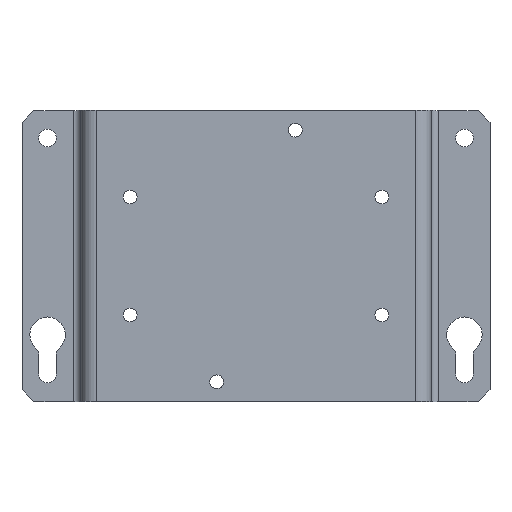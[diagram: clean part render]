
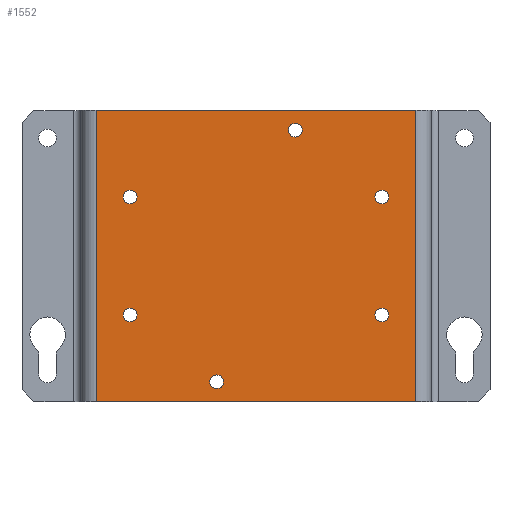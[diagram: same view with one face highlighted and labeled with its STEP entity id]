
A CAD part, top view. The second image highlights one B-rep face of the part: STEP entity #1552.
In plain terms, the highlighted planar face has unit normal (0, 0, 1).
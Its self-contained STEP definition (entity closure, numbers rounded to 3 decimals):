
#24=CARTESIAN_POINT('',(32.,-15.,-5.75));
#25=DIRECTION('',(0.,0.,-1.));
#26=DIRECTION('',(0.,-1.,0.));
#27=AXIS2_PLACEMENT_3D('',#24,#25,#26);
#33=CARTESIAN_POINT('',(32.,-15.,-5.75));
#34=DIRECTION('',(0.,0.,-1.));
#35=DIRECTION('',(0.,1.,0.));
#36=AXIS2_PLACEMENT_3D('',#33,#34,#35);
#41=CARTESIAN_POINT('',(-32.,-15.,-5.75));
#42=DIRECTION('',(0.,0.,-1.));
#43=DIRECTION('',(0.,-1.,0.));
#44=AXIS2_PLACEMENT_3D('',#41,#42,#43);
#49=CARTESIAN_POINT('',(-32.,-15.,-5.75));
#50=DIRECTION('',(0.,0.,-1.));
#51=DIRECTION('',(0.,1.,0.));
#52=AXIS2_PLACEMENT_3D('',#49,#50,#51);
#57=CARTESIAN_POINT('',(10.,32.,-5.75));
#58=DIRECTION('',(0.,0.,-1.));
#59=DIRECTION('',(0.,-1.,0.));
#60=AXIS2_PLACEMENT_3D('',#57,#58,#59);
#65=CARTESIAN_POINT('',(10.,32.,-5.75));
#66=DIRECTION('',(0.,0.,-1.));
#67=DIRECTION('',(0.,1.,0.));
#68=AXIS2_PLACEMENT_3D('',#65,#66,#67);
#73=CARTESIAN_POINT('',(-32.,15.,-5.75));
#74=DIRECTION('',(0.,0.,1.));
#75=DIRECTION('',(-1.,0.,0.));
#76=AXIS2_PLACEMENT_3D('',#73,#74,#75);
#81=CARTESIAN_POINT('',(-32.,15.,-5.75));
#82=DIRECTION('',(0.,0.,1.));
#83=DIRECTION('',(1.,0.,0.));
#84=AXIS2_PLACEMENT_3D('',#81,#82,#83);
#89=CARTESIAN_POINT('',(32.,15.,-5.75));
#90=DIRECTION('',(0.,0.,1.));
#91=DIRECTION('',(-1.,0.,0.));
#92=AXIS2_PLACEMENT_3D('',#89,#90,#91);
#97=CARTESIAN_POINT('',(32.,15.,-5.75));
#98=DIRECTION('',(0.,0.,1.));
#99=DIRECTION('',(1.,0.,0.));
#100=AXIS2_PLACEMENT_3D('',#97,#98,#99);
#105=CARTESIAN_POINT('',(-10.,-32.,-5.75));
#106=DIRECTION('',(0.,0.,1.));
#107=DIRECTION('',(-1.,0.,0.));
#108=AXIS2_PLACEMENT_3D('',#105,#106,#107);
#113=CARTESIAN_POINT('',(-10.,-32.,-5.75));
#114=DIRECTION('',(0.,0.,1.));
#115=DIRECTION('',(1.,0.,0.));
#116=AXIS2_PLACEMENT_3D('',#113,#114,#115);
#121=DIRECTION('',(1.,0.,0.));
#122=VECTOR('',#121,81.2);
#123=CARTESIAN_POINT('',(-40.6,37.,-5.75));
#124=LINE('',#123,#122);
#345=DIRECTION('',(0.,1.,0.));
#346=VECTOR('',#345,74.);
#347=CARTESIAN_POINT('',(40.6,-37.,-5.75));
#348=LINE('',#347,#346);
#405=DIRECTION('',(0.,1.,0.));
#406=VECTOR('',#405,74.);
#407=CARTESIAN_POINT('',(-40.6,-37.,-5.75));
#408=LINE('',#407,#406);
#449=DIRECTION('',(1.,0.,0.));
#450=VECTOR('',#449,81.2);
#451=CARTESIAN_POINT('',(-40.6,-37.,-5.75));
#452=LINE('',#451,#450);
#1293=CARTESIAN_POINT('',(32.,-16.75,-5.75));
#1294=CARTESIAN_POINT('',(32.,-13.25,-5.75));
#1295=VERTEX_POINT('',#1293);
#1296=VERTEX_POINT('',#1294);
#1297=CARTESIAN_POINT('',(-32.,-16.75,-5.75));
#1298=CARTESIAN_POINT('',(-32.,-13.25,-5.75));
#1299=VERTEX_POINT('',#1297);
#1300=VERTEX_POINT('',#1298);
#1301=CARTESIAN_POINT('',(10.,30.25,-5.75));
#1302=CARTESIAN_POINT('',(10.,33.75,-5.75));
#1303=VERTEX_POINT('',#1301);
#1304=VERTEX_POINT('',#1302);
#1317=CARTESIAN_POINT('',(-40.6,-37.,-5.75));
#1319=VERTEX_POINT('',#1317);
#1325=CARTESIAN_POINT('',(-40.6,37.,-5.75));
#1327=VERTEX_POINT('',#1325);
#1349=CARTESIAN_POINT('',(40.6,-37.,-5.75));
#1351=VERTEX_POINT('',#1349);
#1357=CARTESIAN_POINT('',(40.6,37.,-5.75));
#1359=VERTEX_POINT('',#1357);
#1413=CARTESIAN_POINT('',(-33.75,15.,-5.75));
#1414=CARTESIAN_POINT('',(-30.25,15.,-5.75));
#1415=VERTEX_POINT('',#1413);
#1416=VERTEX_POINT('',#1414);
#1417=CARTESIAN_POINT('',(30.25,15.,-5.75));
#1418=CARTESIAN_POINT('',(33.75,15.,-5.75));
#1419=VERTEX_POINT('',#1417);
#1420=VERTEX_POINT('',#1418);
#1421=CARTESIAN_POINT('',(-11.75,-32.,-5.75));
#1422=CARTESIAN_POINT('',(-8.25,-32.,-5.75));
#1423=VERTEX_POINT('',#1421);
#1424=VERTEX_POINT('',#1422);
#1501=CARTESIAN_POINT('',(-44.5,37.,-5.75));
#1502=DIRECTION('',(0.,0.,1.));
#1503=DIRECTION('',(0.,-1.,0.));
#1504=AXIS2_PLACEMENT_3D('',#1501,#1502,#1503);
#1505=PLANE('',#1504);
#1507=ORIENTED_EDGE('',*,*,#1506,.F.);
#1509=ORIENTED_EDGE('',*,*,#1508,.F.);
#1511=ORIENTED_EDGE('',*,*,#1510,.T.);
#1513=ORIENTED_EDGE('',*,*,#1512,.T.);
#1514=EDGE_LOOP('',(#1507,#1509,#1511,#1513));
#1515=FACE_OUTER_BOUND('',#1514,.F.);
#1517=ORIENTED_EDGE('',*,*,#1516,.F.);
#1519=ORIENTED_EDGE('',*,*,#1518,.F.);
#1520=EDGE_LOOP('',(#1517,#1519));
#1521=FACE_BOUND('',#1520,.F.);
#1523=ORIENTED_EDGE('',*,*,#1522,.F.);
#1525=ORIENTED_EDGE('',*,*,#1524,.F.);
#1526=EDGE_LOOP('',(#1523,#1525));
#1527=FACE_BOUND('',#1526,.F.);
#1529=ORIENTED_EDGE('',*,*,#1528,.T.);
#1531=ORIENTED_EDGE('',*,*,#1530,.T.);
#1532=EDGE_LOOP('',(#1529,#1531));
#1533=FACE_BOUND('',#1532,.F.);
#1535=ORIENTED_EDGE('',*,*,#1534,.T.);
#1537=ORIENTED_EDGE('',*,*,#1536,.T.);
#1538=EDGE_LOOP('',(#1535,#1537));
#1539=FACE_BOUND('',#1538,.F.);
#1541=ORIENTED_EDGE('',*,*,#1540,.T.);
#1543=ORIENTED_EDGE('',*,*,#1542,.T.);
#1544=EDGE_LOOP('',(#1541,#1543));
#1545=FACE_BOUND('',#1544,.F.);
#1547=ORIENTED_EDGE('',*,*,#1546,.F.);
#1549=ORIENTED_EDGE('',*,*,#1548,.F.);
#1550=EDGE_LOOP('',(#1547,#1549));
#1551=FACE_BOUND('',#1550,.F.);
#28=CIRCLE('',#27,1.75);
#37=CIRCLE('',#36,1.75);
#45=CIRCLE('',#44,1.75);
#53=CIRCLE('',#52,1.75);
#61=CIRCLE('',#60,1.75);
#69=CIRCLE('',#68,1.75);
#77=CIRCLE('',#76,1.75);
#85=CIRCLE('',#84,1.75);
#93=CIRCLE('',#92,1.75);
#101=CIRCLE('',#100,1.75);
#109=CIRCLE('',#108,1.75);
#117=CIRCLE('',#116,1.75);
#1506=EDGE_CURVE('',#1351,#1359,#348,.T.);
#1508=EDGE_CURVE('',#1319,#1351,#452,.T.);
#1510=EDGE_CURVE('',#1319,#1327,#408,.T.);
#1512=EDGE_CURVE('',#1327,#1359,#124,.T.);
#1516=EDGE_CURVE('',#1299,#1300,#45,.T.);
#1518=EDGE_CURVE('',#1300,#1299,#53,.T.);
#1522=EDGE_CURVE('',#1303,#1304,#61,.T.);
#1524=EDGE_CURVE('',#1304,#1303,#69,.T.);
#1528=EDGE_CURVE('',#1415,#1416,#77,.T.);
#1530=EDGE_CURVE('',#1416,#1415,#85,.T.);
#1534=EDGE_CURVE('',#1419,#1420,#93,.T.);
#1536=EDGE_CURVE('',#1420,#1419,#101,.T.);
#1540=EDGE_CURVE('',#1423,#1424,#109,.T.);
#1542=EDGE_CURVE('',#1424,#1423,#117,.T.);
#1546=EDGE_CURVE('',#1295,#1296,#28,.T.);
#1548=EDGE_CURVE('',#1296,#1295,#37,.T.);
#1552=ADVANCED_FACE('',(#1515,#1521,#1527,#1533,#1539,#1545,#1551),#1505,.T.);
